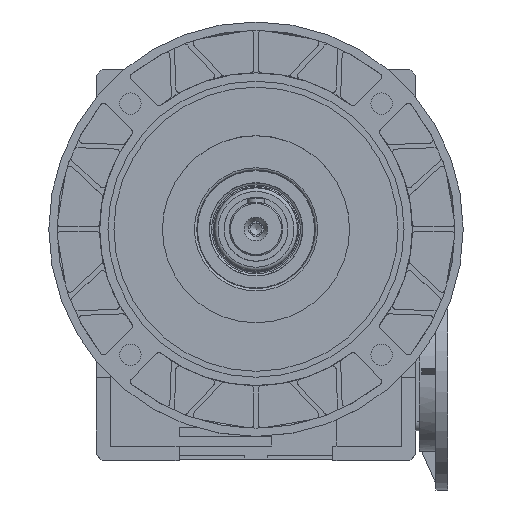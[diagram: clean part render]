
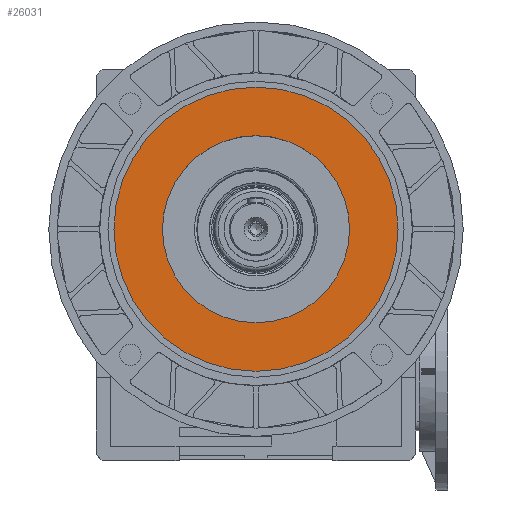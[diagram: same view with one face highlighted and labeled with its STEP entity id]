
A CAD part, top view. The second image highlights one B-rep face of the part: STEP entity #26031.
In plain terms, the highlighted planar face has unit normal (0, 0, 1).
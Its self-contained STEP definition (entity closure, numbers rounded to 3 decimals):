
#2087 = DIRECTION ( 'NONE',  ( 0., 0., 1. ) ) ;
#4097 = VERTEX_POINT ( 'NONE', #23198 ) ;
#4310 = DIRECTION ( 'NONE',  ( 0., 0., -1. ) ) ;
#4759 = AXIS2_PLACEMENT_3D ( 'NONE', #11073, #2087, #17457 ) ;
#4862 = ORIENTED_EDGE ( 'NONE', *, *, #37666, .T. ) ;
#5856 = CIRCLE ( 'NONE', #7412, 120. ) ;
#7412 = AXIS2_PLACEMENT_3D ( 'NONE', #22625, #4310, #25515 ) ;
#8050 = AXIS2_PLACEMENT_3D ( 'NONE', #12571, #33128, #15776 ) ;
#8376 = CIRCLE ( 'NONE', #8050, 79. ) ;
#9425 = EDGE_CURVE ( 'NONE', #36808, #36808, #5856, .T. ) ;
#11073 = CARTESIAN_POINT ( 'NONE',  ( 0., 120., 150. ) ) ;
#12571 = CARTESIAN_POINT ( 'NONE',  ( 0., 0., 150. ) ) ;
#15776 = DIRECTION ( 'NONE',  ( 0., 1., 0. ) ) ;
#17457 = DIRECTION ( 'NONE',  ( 0., -1., 0. ) ) ;
#18469 = ORIENTED_EDGE ( 'NONE', *, *, #9425, .F. ) ;
#21268 = FACE_BOUND ( 'NONE', #37349, .T. ) ;
#21279 = FACE_OUTER_BOUND ( 'NONE', #24898, .T. ) ;
#22625 = CARTESIAN_POINT ( 'NONE',  ( 0., 0., 150. ) ) ;
#23198 = CARTESIAN_POINT ( 'NONE',  ( 0., 79., 150. ) ) ;
#23478 = CARTESIAN_POINT ( 'NONE',  ( 0., 120., 150. ) ) ;
#24898 = EDGE_LOOP ( 'NONE', ( #18469 ) ) ;
#25515 = DIRECTION ( 'NONE',  ( 0., 1., 0. ) ) ;
#26031 = ADVANCED_FACE ( 'NONE', ( #21268, #21279 ), #34587, .T. ) ;
#33128 = DIRECTION ( 'NONE',  ( 0., 0., -1. ) ) ;
#34587 = PLANE ( 'NONE',  #4759 ) ;
#36808 = VERTEX_POINT ( 'NONE', #23478 ) ;
#37349 = EDGE_LOOP ( 'NONE', ( #4862 ) ) ;
#37666 = EDGE_CURVE ( 'NONE', #4097, #4097, #8376, .T. ) ;
